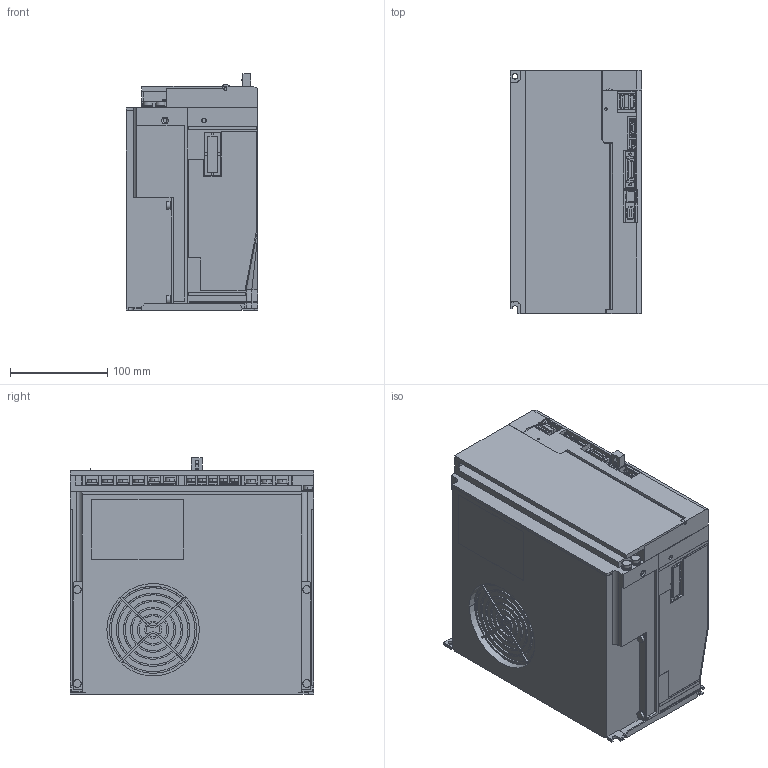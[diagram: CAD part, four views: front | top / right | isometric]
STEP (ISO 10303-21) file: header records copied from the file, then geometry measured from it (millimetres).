
FILE_DESCRIPTION (( 'STEP AP203' ), '1' );
FILE_NAME ('sgdv_170d1_a.STEP', '2008-06-17T08:17:48', ( 'T' ), ( 'T' ), 'SwSTEP 2.0', 'SolidWorks 2006052', '' );
FILE_SCHEMA (( 'CONFIG_CONTROL_DESIGN' ));
Length unit declared in the file: millimetre
Products named in the file (8): sgdv_170d1_a_connector; sgdv_170d1_a_cover3; sgdv_170d1_a; sgdv_170d1_a_base; sgdv_170d1_a_cover; sgdv_170d1_a_cover2; sgdv_170d1_a_terminal; sgdv_170d1_a_terminal2
Assembly tree (8 placements, depth 2):
  sgdv_170d1_a
    sgdv_170d1_a_cover
    sgdv_170d1_a_cover2  x2
    sgdv_170d1_a_base
    sgdv_170d1_a_terminal
    sgdv_170d1_a_terminal2
    sgdv_170d1_a_connector
    sgdv_170d1_a_cover3
Bounding box: 135.6 x 250 x 243 mm (x, y, z)
Volume: 7171479.4 mm3; surface area: 349672 mm2
Topology: 8 solids, 8 shells, 1932 faces, 5203 edges, 3404 vertices
Faces by surface type: plane 1666, cylinder 255, cone 8, bspline 2, sphere 1
Entity records: 60015 total; most frequent: CARTESIAN_POINT 10509, ORIENTED_EDGE 10298, DIRECTION 9621, EDGE_CURVE 5149, VECTOR 4501, LINE 4501, VERTEX_POINT 3368, AXIS2_PLACEMENT_3D 2560
